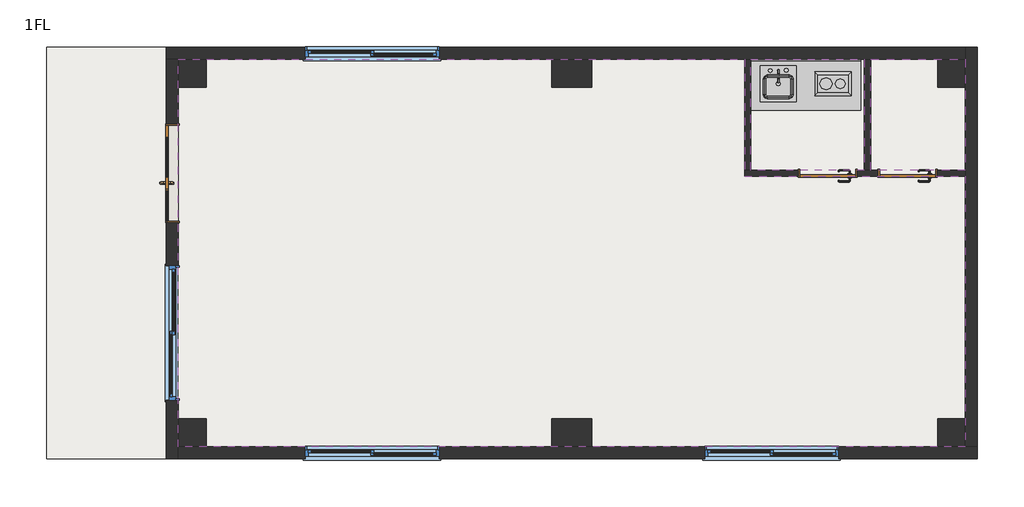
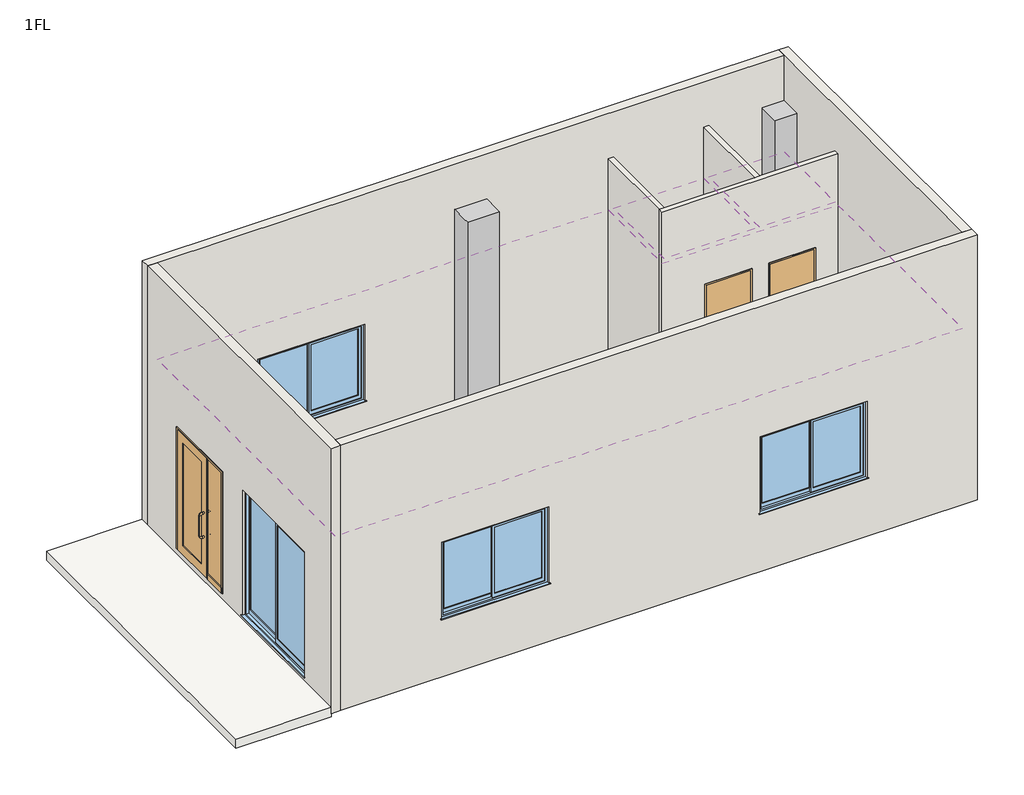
# One storey, incomplete: 7 walls, 6 columns, 4 windows, 3 coverings, 3 doors, 2 proxies, 2 slabs, 1 flow terminal, 1 furniture element.
"""IFC4 building model written with IfcOpenShell, lengths in millimetres."""

from ifc_helpers import new_model, si_unit, frame, origin, place, context, project, spatial, polyline, outline, extrude, faceted_brep, transform, mapped, element, save
from components import proxy_1372mm_5fde8fd9, proxy_305_x_457mm_75991893, w1200h2000_b89c3308, w700h2000_a506aba8, flow_terminal_450_x_450mm_65598b4f, furniture_600mm_61525606, w1600h1200_2426852b, w1600h2000_0297a6ef

model = new_model("IFC4")

# Units and contexts
model_context = context("Model", 3, world=origin())
ifc_project = project(units=[si_unit("LENGTHUNIT", "METRE", prefix="MILLI")], contexts=[model_context])

# Site, building, storey
site = spatial("IfcSite", under=ifc_project)
building = spatial("IfcBuilding", under=site)
storey = spatial("IfcBuildingStorey", under=building, Name="1FL", Elevation=200.0)

# Proxies
placement = place(None, origin())
proxy_1372mm_shape = proxy_1372mm_5fde8fd9(model_context)
element("IfcBuildingElementProxy", 1, Name="システムキッチン - スケール(小) - 3D : 1372mm", ObjectType="システムキッチン - スケール(小) - 3D : 1372mm", at=placement, inside=storey, context=model_context, shape_type="MappedRepresentation", body=[
    mapped(proxy_1372mm_shape, transform((3287.3423123, 2854.5568679, 200.0), x_axis=(1.0, 0.0, 0.0), y_axis=(0.0, 1.0, 0.0), z_axis=(0.0, 0.0, 1.0))),
])
proxy_305_x_457mm_shape = proxy_305_x_457mm_75991893(model_context)
element("IfcBuildingElementProxy", 2, Name="レンジ台-2 ユニット : 305 x 457mm", ObjectType="レンジ台-2 ユニット : 305 x 457mm", at=placement, inside=storey, context=model_context, shape_type="MappedRepresentation", body=[
    mapped(proxy_305_x_457mm_shape, transform((3679.3048128, 2473.3568679, 240.0), x_axis=(0.0, 1.0, 0.0), y_axis=(-1.0, 0.0, 0.0), z_axis=(0.0, 0.0, 1.0))),
])

# Columns
element("IfcColumn", 3, ObjectType="RC柱-角 : 500x500", at=placement, inside=storey, context=model_context, shape_type="SweptSolid", body=[
    extrude(outline(polyline([(-4544.4199828, -1645.4431321), (-4194.4199828, -1645.4431321), (-4194.4199828, -1995.4431321), (-4544.4199828, -1995.4431321), (-4544.4199828, -1645.4431321)])), frame((0.0, 0.0, 200.0), z_axis=(0.0, 0.0, 1.0), x_axis=(1.0, 0.0, 0.0)), (0.0, 0.0, 1.0), 3450.0),
])
element("IfcColumn", 4, ObjectType="RC柱-角 : 500x500", at=placement, inside=storey, context=model_context, shape_type="SweptSolid", body=[
    extrude(outline(polyline([(-4194.4199828, 2854.5568679), (-4194.4199828, 2504.5568679), (-4544.4199828, 2504.5568679), (-4544.4199828, 2854.5568679), (-4194.4199828, 2854.5568679)])), frame((0.0, 0.0, 200.0), z_axis=(0.0, 0.0, 1.0), x_axis=(1.0, 0.0, 0.0)), (0.0, 0.0, 1.0), 3450.0),
])
element("IfcColumn", 5, ObjectType="RC柱-角 : 500x500", at=placement, inside=storey, context=model_context, shape_type="Brep", body=[
    faceted_brep([(130.5800172, -1645.4431321, 200.0), (630.5800172, -1645.4431321, 200.0), (630.5800172, -1995.4431321, 200.0), (130.5800172, -1995.4431321, 200.0), (130.5800172, -1995.4431321, 3200.0), (130.5800172, -1995.4431321, 3650.0), (130.5800172, -1745.4431321, 3650.0), (130.5800172, -1645.4431321, 3650.0), (630.5800172, -1645.4431321, 3650.0), (630.5800172, -1745.4431321, 3650.0), (630.5800172, -1995.4431321, 3650.0), (630.5800172, -1995.4431321, 3200.0)], [[[0, 1, 2, 3]], [[0, 3, 4, 5, 6, 7]], [[1, 0, 7, 8]], [[2, 1, 8, 9, 10, 11]], [[3, 2, 11, 10, 5, 4]], [[7, 6, 5, 10, 9, 8]]]),
])
element("IfcColumn", 6, ObjectType="RC柱-角 : 500x500", at=placement, inside=storey, context=model_context, shape_type="Brep", body=[
    faceted_brep([(630.5800172, 2504.5568679, 200.0), (130.5800172, 2504.5568679, 200.0), (130.5800172, 2854.5568679, 200.0), (630.5800172, 2854.5568679, 200.0), (130.5800172, 2504.5568679, 3650.0), (130.5800172, 2604.5568679, 3650.0), (130.5800172, 2854.5568679, 3650.0), (130.5800172, 2854.5568679, 3200.0), (630.5800172, 2854.5568679, 3200.0), (630.5800172, 2854.5568679, 3650.0), (630.5800172, 2604.5568679, 3650.0), (630.5800172, 2504.5568679, 3650.0)], [[[0, 1, 2, 3]], [[2, 1, 4, 5, 6, 7]], [[0, 3, 8, 9, 10, 11]], [[1, 0, 11, 4]], [[3, 2, 7, 6, 9, 8]], [[6, 5, 4, 11, 10, 9]]]),
])
element("IfcColumn", 7, ObjectType="RC柱-角 : 500x500", at=placement, inside=storey, context=model_context, shape_type="SweptSolid", body=[
    extrude(outline(polyline([(4955.5800172, -1995.4431321), (4955.5800172, -1645.4431321), (5305.5800172, -1645.4431321), (5305.5800172, -1995.4431321), (4955.5800172, -1995.4431321)])), frame((0.0, 0.0, 200.0), z_axis=(0.0, 0.0, 1.0), x_axis=(1.0, 0.0, 0.0)), (0.0, 0.0, 1.0), 3450.0),
])
element("IfcColumn", 8, ObjectType="RC柱-角 : 500x500", at=placement, inside=storey, context=model_context, shape_type="SweptSolid", body=[
    extrude(outline(polyline([(4955.5800172, 2504.5568679), (4955.5800172, 2854.5568679), (5305.5800172, 2854.5568679), (5305.5800172, 2504.5568679), (4955.5800172, 2504.5568679)])), frame((0.0, 0.0, 200.0), z_axis=(0.0, 0.0, 1.0), x_axis=(1.0, 0.0, 0.0)), (0.0, 0.0, 1.0), 3450.0),
])

# Coverings
element("IfcCovering", 9, ObjectType="グリッド 600x600mm", at=placement, inside=storey, context=model_context, shape_type="SweptSolid", body=[
    extrude(outline(polyline([(-4544.4199828, 2854.5568679), (2541.0800172, 2854.5568679), (2541.0800172, 1390.0568679), (5305.5800172, 1390.0568679), (5305.5800172, -1995.4431321), (-4544.4199828, -1995.4431321), (-4544.4199828, 2854.5568679)])), frame((0.0, 0.0, 2800.0), z_axis=(0.0, 0.0, 1.0), x_axis=(1.0, 0.0, 0.0)), (0.0, 0.0, 1.0), 52.0),
])
element("IfcCovering", 10, ObjectType="グリッド 600x600mm", at=placement, inside=storey, context=model_context, shape_type="SweptSolid", body=[
    extrude(outline(polyline([(2620.0800172, 2854.5568679), (4041.0800172, 2854.5568679), (4041.0800172, 1469.0568679), (2620.0800172, 1469.0568679), (2620.0800172, 2854.5568679)])), frame((0.0, 0.0, 2800.0), z_axis=(0.0, 0.0, 1.0), x_axis=(1.0, 0.0, 0.0)), (0.0, 0.0, 1.0), 52.0),
])
element("IfcCovering", 11, ObjectType="グリッド 600x600mm", at=placement, inside=storey, context=model_context, shape_type="SweptSolid", body=[
    extrude(outline(polyline([(4120.0800172, 1469.0568679), (4120.0800172, 2854.5568679), (5305.5800172, 2854.5568679), (5305.5800172, 1469.0568679), (4120.0800172, 1469.0568679)])), frame((0.0, 0.0, 2800.0), z_axis=(0.0, 0.0, 1.0), x_axis=(1.0, 0.0, 0.0)), (0.0, 0.0, 1.0), 52.0),
])

# Doors
w1200h2000_shape = w1200h2000_b89c3308(model_context)
element("IfcDoor", 12, ObjectType="片袖片開き_ガラス四方框 : w1200h2000", at=placement, inside=storey, context=model_context, shape_type="MappedRepresentation", body=[
    mapped(w1200h2000_shape, transform((-4619.4199828, 1429.5568679, 200.0), x_axis=(0.0, 1.0, 0.0), y_axis=(-1.0, 0.0, 0.0), z_axis=(0.0, 0.0, 1.0))),
])
w700h2000_shape = w700h2000_a506aba8(model_context)
element("IfcDoor", 13, ObjectType="片開き : w700h2000", at=placement, inside=storey, context=model_context, shape_type="MappedRepresentation", body=[
    mapped(w700h2000_shape, transform((4580.5800172, 1429.5568679, 200.0), x_axis=(-1.0, 0.0, 0.0), y_axis=(0.0, -1.0, 0.0), z_axis=(0.0, 0.0, 1.0))),
])
element("IfcDoor", 14, ObjectType="片開き : w700h2000", at=placement, inside=storey, context=model_context, shape_type="MappedRepresentation", body=[
    mapped(w700h2000_shape, transform((3580.5800172, 1429.5568679, 200.0), x_axis=(-1.0, 0.0, 0.0), y_axis=(0.0, -1.0, 0.0), z_axis=(0.0, 0.0, 1.0))),
])

# Flow terminal
flow_terminal_450_x_450mm_shape = flow_terminal_450_x_450mm_65598b4f(model_context)
element("IfcFlowTerminal", 15, ObjectType="シンク キッチン - アイランド : 450 x 450mm", at=placement, inside=storey, context=model_context, shape_type="MappedRepresentation", body=[
    mapped(flow_terminal_450_x_450mm_shape, transform((2947.3907766, 2547.2114667, 240.0), x_axis=(1.0, 0.0, 0.0), y_axis=(0.0, 1.0, 0.0), z_axis=(0.0, 0.0, 1.0))),
])

# Furniture
furniture_600mm_shape = furniture_600mm_61525606(model_context)
element("IfcFurniture", 16, ObjectType="カウンタ シンク開口付 : 600mm", at=placement, inside=storey, context=model_context, shape_type="MappedRepresentation", body=[
    mapped(furniture_600mm_shape, transform((3820.5423123, 2854.5568679, 240.0), x_axis=(1.0, 0.0, 0.0), y_axis=(0.0, 1.0, 0.0), z_axis=(0.0, 0.0, 1.0))),
])

# Slabs
element("IfcSlab", 17, ObjectType="一般 150 mm", at=placement, inside=storey, context=model_context, shape_type="Brep", body=[
    faceted_brep([(5305.5800172, 2854.5568679, 50.0), (5305.5800172, -1995.4431321, 50.0), (-4544.4199828, -1995.4431321, 50.0), (-4544.4199828, 2854.5568679, 50.0), (5305.5800172, 2854.5568679, 200.0), (4955.5800172, 2854.5568679, 200.0), (630.5800172, 2854.5568679, 200.0), (130.5800172, 2854.5568679, 200.0), (-4194.4199828, 2854.5568679, 200.0), (-4544.4199828, 2854.5568679, 200.0), (-4544.4199828, 2504.5568679, 200.0), (-4544.4199828, -1645.4431321, 200.0), (-4544.4199828, -1995.4431321, 200.0), (-4194.4199828, -1995.4431321, 200.0), (130.5800172, -1995.4431321, 200.0), (630.5800172, -1995.4431321, 200.0), (4955.5800172, -1995.4431321, 200.0), (5305.5800172, -1995.4431321, 200.0), (5305.5800172, -1645.4431321, 200.0), (5305.5800172, 2504.5568679, 200.0)], [[[0, 1, 2, 3]], [[4, 5, 6, 7, 8, 9, 10, 11, 12, 13, 14, 15, 16, 17, 18, 19]], [[1, 0, 4, 19, 18, 17]], [[2, 1, 17, 16, 15, 14, 13, 12]], [[3, 2, 12, 11, 10, 9]], [[0, 3, 9, 8, 7, 6, 5, 4]]]),
])
element("IfcSlab", 18, ObjectType="一般 150 mm", at=placement, inside=storey, context=model_context, shape_type="SweptSolid", body=[
    extrude(outline(polyline([(-6194.4199828, 3004.5568679), (-4694.4199828, 3004.5568679), (-4694.4199828, -2145.4431321), (-6194.4199828, -2145.4431321), (-6194.4199828, 3004.5568679)])), frame((0.0, 0.0, -50.0), z_axis=(0.0, 0.0, 1.0), x_axis=(1.0, 0.0, 0.0)), (0.0, 0.0, 1.0), 150.0),
])

# Walls
element("IfcWall", 19, ObjectType="標準-150mm", at=placement, inside=storey, context=model_context, shape_type="Brep", body=[
    faceted_brep([(-4694.4199828, 2854.5568679, 0.0), (-4544.4199828, 2854.5568679, 0.0), (5305.5800172, 2854.5568679, 0.0), (5305.5800172, 2854.5568679, 200.0), (5305.5800172, 2854.5568679, 3650.0), (5305.5800172, 2854.5568679, 4400.0), (-4544.4199828, 2854.5568679, 4400.0), (-4694.4199828, 2854.5568679, 4400.0), (-2959.4199828, 2854.5568679, 2240.0), (-1279.4199828, 2854.5568679, 2240.0), (-1279.4199828, 2854.5568679, 960.0), (-2959.4199828, 2854.5568679, 960.0), (-4694.4199828, 3004.5568679, 0.0), (-4694.4199828, 3004.5568679, 4400.0), (5305.5800172, 3004.5568679, 4400.0), (5305.5800172, 3004.5568679, 0.0), (-2959.4199828, 3004.5568679, 2240.0), (-2959.4199828, 3004.5568679, 960.0), (-1279.4199828, 3004.5568679, 960.0), (-1279.4199828, 3004.5568679, 2240.0)], [[[0, 1, 2, 3, 4, 5, 6, 7], [8, 9, 10, 11]], [[12, 13, 14, 15], [16, 17, 18, 19]], [[2, 1, 0, 12, 15]], [[7, 6, 5, 14, 13]], [[0, 7, 13, 12]], [[5, 4, 3, 2, 15, 14]], [[17, 16, 8, 11]], [[18, 17, 11, 10]], [[19, 18, 10, 9]], [[16, 19, 9, 8]]]),
])
element("IfcWall", 20, ObjectType="標準-150mm", at=placement, inside=storey, context=model_context, shape_type="Brep", body=[
    faceted_brep([(-4544.4199828, -2145.4431321, 0.0), (-4544.4199828, -1995.4431321, 0.0), (-4544.4199828, 2854.5568679, 0.0), (-4544.4199828, 2854.5568679, 200.0), (-4544.4199828, 2854.5568679, 3650.0), (-4544.4199828, 2854.5568679, 3800.0), (-4544.4199828, 2854.5568679, 4400.0), (-4544.4199828, -1995.4431321, 4400.0), (-4544.4199828, -2145.4431321, 4400.0), (-4544.4199828, 2049.5568679, 2220.0), (-4544.4199828, 2049.5568679, 200.0), (-4544.4199828, 809.5568679, 200.0), (-4544.4199828, 809.5568679, 2220.0), (-4544.4199828, 269.5568679, 2240.0), (-4544.4199828, 269.5568679, 160.0), (-4544.4199828, -1410.4431321, 160.0), (-4544.4199828, -1410.4431321, 2240.0), (-4694.4199828, 2854.5568679, 0.0), (-4694.4199828, -2145.4431321, 0.0), (-4694.4199828, -2145.4431321, 4400.0), (-4694.4199828, 2854.5568679, 4400.0), (-4694.4199828, 2049.5568679, 2220.0), (-4694.4199828, 809.5568679, 2220.0), (-4694.4199828, 809.5568679, 200.0), (-4694.4199828, 2049.5568679, 200.0), (-4694.4199828, 269.5568679, 160.0), (-4694.4199828, 269.5568679, 2240.0), (-4694.4199828, -1410.4431321, 2240.0), (-4694.4199828, -1410.4431321, 160.0)], [[[0, 1, 2, 3, 4, 5, 6, 7, 8], [9, 10, 11, 12], [13, 14, 15, 16]], [[17, 18, 19, 20], [21, 22, 23, 24], [25, 26, 27, 28]], [[2, 1, 0, 18, 17]], [[8, 7, 6, 20, 19]], [[0, 8, 19, 18]], [[6, 5, 4, 3, 2, 17, 20]], [[10, 9, 21, 24]], [[11, 10, 24, 23]], [[12, 11, 23, 22]], [[9, 12, 22, 21]], [[13, 26, 25, 14]], [[15, 28, 27, 16]], [[26, 13, 16, 27]], [[28, 15, 14, 25]]]),
])
element("IfcWall", 21, ObjectType="標準-150mm", at=placement, inside=storey, context=model_context, shape_type="Brep", body=[
    faceted_brep([(5455.5800172, -1995.4431321, 0.0), (5305.5800172, -1995.4431321, 0.0), (-4544.4199828, -1995.4431321, 0.0), (-4544.4199828, -1995.4431321, 200.0), (-4544.4199828, -1995.4431321, 3650.0), (-4544.4199828, -1995.4431321, 4400.0), (5305.5800172, -1995.4431321, 4400.0), (5455.5800172, -1995.4431321, 4400.0), (-2959.4199828, -1995.4431321, 2240.0), (-2959.4199828, -1995.4431321, 960.0), (-1279.4199828, -1995.4431321, 960.0), (-1279.4199828, -1995.4431321, 2240.0), (2040.5800172, -1995.4431321, 2240.0), (2040.5800172, -1995.4431321, 960.0), (3720.5800172, -1995.4431321, 960.0), (3720.5800172, -1995.4431321, 2240.0), (5455.5800172, -2145.4431321, 0.0), (5455.5800172, -2145.4431321, 4400.0), (-4544.4199828, -2145.4431321, 4400.0), (-4544.4199828, -2145.4431321, 0.0), (-2959.4199828, -2145.4431321, 2240.0), (-1279.4199828, -2145.4431321, 2240.0), (-1279.4199828, -2145.4431321, 960.0), (-2959.4199828, -2145.4431321, 960.0), (2040.5800172, -2145.4431321, 2240.0), (3720.5800172, -2145.4431321, 2240.0), (3720.5800172, -2145.4431321, 960.0), (2040.5800172, -2145.4431321, 960.0)], [[[0, 1, 2, 3, 4, 5, 6, 7], [8, 9, 10, 11], [12, 13, 14, 15]], [[16, 17, 18, 19], [20, 21, 22, 23], [24, 25, 26, 27]], [[2, 1, 0, 16, 19]], [[7, 6, 5, 18, 17]], [[0, 7, 17, 16]], [[5, 4, 3, 2, 19, 18]], [[9, 8, 20, 23]], [[10, 9, 23, 22]], [[11, 10, 22, 21]], [[8, 11, 21, 20]], [[13, 12, 24, 27]], [[14, 13, 27, 26]], [[15, 14, 26, 25]], [[12, 15, 25, 24]]]),
])
element("IfcWall", 22, ObjectType="標準-150mm", at=placement, inside=storey, context=model_context, shape_type="Brep", body=[
    faceted_brep([(5305.5800172, 3004.5568679, 0.0), (5305.5800172, 2854.5568679, 0.0), (5305.5800172, -1995.4431321, 0.0), (5305.5800172, -1995.4431321, 200.0), (5305.5800172, -1995.4431321, 3650.0), (5305.5800172, -1995.4431321, 3800.0), (5305.5800172, -1995.4431321, 4400.0), (5305.5800172, 2854.5568679, 4400.0), (5305.5800172, 3004.5568679, 4400.0), (5455.5800172, 3004.5568679, 0.0), (5455.5800172, 3004.5568679, 4400.0), (5455.5800172, -1995.4431321, 4400.0), (5455.5800172, -1995.4431321, 0.0)], [[[0, 1, 2, 3, 4, 5, 6, 7, 8]], [[9, 10, 11, 12]], [[2, 1, 0, 9, 12]], [[8, 7, 6, 11, 10]], [[0, 8, 10, 9]], [[6, 5, 4, 3, 2, 12, 11]]]),
])
element("IfcWall", 23, ObjectType="内壁-79mm 間仕切り(1時間)", at=placement, inside=storey, context=model_context, shape_type="Brep", body=[
    faceted_brep([(4210.5800172, 1469.0568679, 200.0), (4120.0800172, 1469.0568679, 200.0), (4041.0800172, 1469.0568679, 200.0), (3950.5800172, 1469.0568679, 200.0), (3950.5800172, 1469.0568679, 2220.0), (3210.5800172, 1469.0568679, 2220.0), (3210.5800172, 1469.0568679, 200.0), (2620.0800172, 1469.0568679, 200.0), (2541.0800172, 1469.0568679, 200.0), (2541.0800172, 1469.0568679, 3650.0), (2620.0800172, 1469.0568679, 3650.0), (4041.0800172, 1469.0568679, 3650.0), (4120.0800172, 1469.0568679, 3650.0), (5305.5800172, 1469.0568679, 3650.0), (5305.5800172, 1469.0568679, 200.0), (4950.5800172, 1469.0568679, 200.0), (4950.5800172, 1469.0568679, 2220.0), (4210.5800172, 1469.0568679, 2220.0), (3950.5800172, 1390.0568679, 2220.0), (3950.5800172, 1390.0568679, 200.0), (4210.5800172, 1390.0568679, 200.0), (4210.5800172, 1390.0568679, 2220.0), (4950.5800172, 1390.0568679, 2220.0), (4950.5800172, 1390.0568679, 200.0), (5305.5800172, 1390.0568679, 200.0), (5305.5800172, 1390.0568679, 3650.0), (2541.0800172, 1390.0568679, 3650.0), (2541.0800172, 1390.0568679, 200.0), (3210.5800172, 1390.0568679, 200.0), (3210.5800172, 1390.0568679, 2220.0)], [[[0, 1, 2, 3, 4, 5, 6, 7, 8, 9, 10, 11, 12, 13, 14, 15, 16, 17]], [[18, 19, 20, 21, 22, 23, 24, 25, 26, 27, 28, 29]], [[24, 23, 15, 14]], [[28, 27, 8, 7, 6]], [[20, 19, 3, 2, 1, 0]], [[13, 12, 11, 10, 9, 26, 25]], [[14, 13, 25, 24]], [[9, 8, 27, 26]], [[0, 17, 21, 20]], [[16, 15, 23, 22]], [[17, 16, 22, 21]], [[6, 5, 29, 28]], [[4, 3, 19, 18]], [[5, 4, 18, 29]]]),
])
element("IfcWall", 24, ObjectType="内壁-79mm 間仕切り(1時間)", at=placement, inside=storey, context=model_context, shape_type="SweptSolid", body=[
    extrude(outline(polyline([(2620.0800172, 2854.5568679), (2620.0800172, 1469.0568679), (2541.0800172, 1469.0568679), (2541.0800172, 2854.5568679), (2620.0800172, 2854.5568679)])), frame((0.0, 0.0, 200.0), z_axis=(0.0, 0.0, 1.0), x_axis=(1.0, 0.0, 0.0)), (0.0, 0.0, 1.0), 3450.0),
])
element("IfcWall", 25, ObjectType="内壁-79mm 間仕切り(1時間)", at=placement, inside=storey, context=model_context, shape_type="SweptSolid", body=[
    extrude(outline(polyline([(4041.0800172, 1469.0568679), (4041.0800172, 2854.5568679), (4120.0800172, 2854.5568679), (4120.0800172, 1469.0568679), (4041.0800172, 1469.0568679)])), frame((0.0, 0.0, 200.0), z_axis=(0.0, 0.0, 1.0), x_axis=(1.0, 0.0, 0.0)), (0.0, 0.0, 1.0), 3450.0),
])

# Windows
w1600h1200_shape = w1600h1200_2426852b(model_context)
element("IfcWindow", 26, ObjectType="引違い腰窓_2枚 : w1600h1200", at=placement, inside=storey, context=model_context, shape_type="MappedRepresentation", body=[
    mapped(w1600h1200_shape, transform((-2119.4199828, -2070.4431321, 200.0), x_axis=(-1.0, 0.0, 0.0), y_axis=(0.0, -1.0, 0.0), z_axis=(0.0, 0.0, 1.0))),
])
element("IfcWindow", 27, ObjectType="引違い腰窓_2枚 : w1600h1200", at=placement, inside=storey, context=model_context, shape_type="MappedRepresentation", body=[
    mapped(w1600h1200_shape, transform((2880.5800172, -2070.4431321, 200.0), x_axis=(-1.0, 0.0, 0.0), y_axis=(0.0, -1.0, 0.0), z_axis=(0.0, 0.0, 1.0))),
])
element("IfcWindow", 28, ObjectType="引違い腰窓_2枚 : w1600h1200", at=placement, inside=storey, context=model_context, shape_type="MappedRepresentation", body=[
    mapped(w1600h1200_shape, transform((-2119.4199828, 2929.5568679, 200.0), x_axis=(-1.0, 0.0, 0.0), y_axis=(0.0, -1.0, 0.0), z_axis=(0.0, 0.0, 1.0))),
])
w1600h2000_shape = w1600h2000_0297a6ef(model_context)
element("IfcWindow", 29, ObjectType="引違い掃出窓_2枚 : w1600h2000", at=placement, inside=storey, context=model_context, shape_type="MappedRepresentation", body=[
    mapped(w1600h2000_shape, transform((-4619.4199828, -570.4431321, 200.0), x_axis=(0.0, 1.0, 0.0), y_axis=(-1.0, 0.0, 0.0), z_axis=(0.0, 0.0, 1.0))),
])

save(model, "model.ifc")
